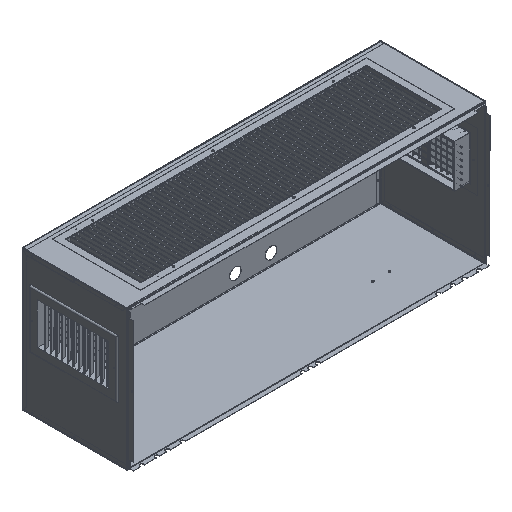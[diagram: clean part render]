
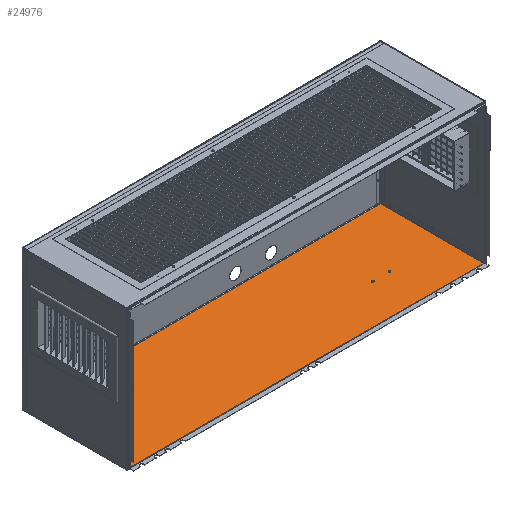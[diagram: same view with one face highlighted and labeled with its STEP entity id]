
A CAD part, isometric view. The second image highlights one B-rep face of the part: STEP entity #24976.
In plain terms, the highlighted planar face has unit normal (0, 0, 1) as drawn and (-1, 0, 0) by its records, which use the part's own axes.
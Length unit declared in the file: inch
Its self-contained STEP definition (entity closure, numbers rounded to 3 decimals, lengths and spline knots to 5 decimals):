
#112 = CARTESIAN_POINT ( 'NONE',  ( 7.61768, 69.57012, 0.08552 ) ) ;
#1647 = EDGE_CURVE ( 'NONE', #38403, #17940, #28912, .T. ) ;
#1666 = ORIENTED_EDGE ( 'NONE', *, *, #26225, .T. ) ;
#1803 = CARTESIAN_POINT ( 'NONE',  ( 7.61768, 25.46787, 13.83947 ) ) ;
#1919 = DIRECTION ( 'NONE',  ( 0., 0., 1. ) ) ;
#2236 = VERTEX_POINT ( 'NONE', #17863 ) ;
#2470 = AXIS2_PLACEMENT_3D ( 'NONE', #8299, #8201, #8145 ) ;
#2502 = LINE ( 'NONE', #9987, #8402 ) ;
#3402 = CARTESIAN_POINT ( 'NONE',  ( 7.61768, 62.39035, 8.41052 ) ) ;
#3556 = EDGE_CURVE ( 'NONE', #24715, #32309, #34981, .T. ) ;
#3728 = ORIENTED_EDGE ( 'NONE', *, *, #35442, .T. ) ;
#4320 = LINE ( 'NONE', #27852, #31734 ) ;
#4520 = VECTOR ( 'NONE', #43083, 39.37008 ) ;
#4918 = VECTOR ( 'NONE', #40337, 39.37008 ) ;
#5208 = DIRECTION ( 'NONE',  ( 0., 1., 0. ) ) ;
#6708 = ORIENTED_EDGE ( 'NONE', *, *, #39556, .T. ) ;
#7026 = LINE ( 'NONE', #33688, #10833 ) ;
#8145 = DIRECTION ( 'NONE',  ( 0., 0., -1. ) ) ;
#8201 = DIRECTION ( 'NONE',  ( 1., 0., 0. ) ) ;
#8299 = CARTESIAN_POINT ( 'NONE',  ( 7.61768, 62.39035, 8.53552 ) ) ;
#8402 = VECTOR ( 'NONE', #37482, 39.37008 ) ;
#8741 = CARTESIAN_POINT ( 'NONE',  ( 7.61768, 22.20632, 0.08552 ) ) ;
#9142 = CARTESIAN_POINT ( 'NONE',  ( 7.61768, 69.57012, 0.08488 ) ) ;
#9370 = CARTESIAN_POINT ( 'NONE',  ( 7.61768, 25.46787, 13.83947 ) ) ;
#9896 = CARTESIAN_POINT ( 'NONE',  ( 7.61768, 69.609, 13.83947 ) ) ;
#9946 = VECTOR ( 'NONE', #19670, 39.37008 ) ;
#9987 = CARTESIAN_POINT ( 'NONE',  ( 7.61768, 25.46787, 13.88577 ) ) ;
#10209 = VERTEX_POINT ( 'NONE', #112 ) ;
#10512 = LINE ( 'NONE', #34636, #39970 ) ;
#10833 = VECTOR ( 'NONE', #13137, 39.37008 ) ;
#10927 = LINE ( 'NONE', #40344, #4918 ) ;
#10952 = VECTOR ( 'NONE', #39840, 39.37008 ) ;
#11218 = VERTEX_POINT ( 'NONE', #26836 ) ;
#11344 = LINE ( 'NONE', #37433, #42572 ) ;
#11366 = CARTESIAN_POINT ( 'NONE',  ( 7.61768, 69.542, 13.83947 ) ) ;
#12595 = LINE ( 'NONE', #9370, #9946 ) ;
#12797 = EDGE_LOOP ( 'NONE', ( #16966, #20315 ) ) ;
#13137 = DIRECTION ( 'NONE',  ( 0., 0., -1. ) ) ;
#13241 = ORIENTED_EDGE ( 'NONE', *, *, #41612, .T. ) ;
#13280 = ORIENTED_EDGE ( 'NONE', *, *, #26552, .T. ) ;
#13394 = ORIENTED_EDGE ( 'NONE', *, *, #33142, .T. ) ;
#13685 = VERTEX_POINT ( 'NONE', #8741 ) ;
#14400 = CARTESIAN_POINT ( 'NONE',  ( 7.61768, 22.26875, 13.83947 ) ) ;
#14416 = EDGE_LOOP ( 'NONE', ( #1666, #20825 ) ) ;
#14800 = CARTESIAN_POINT ( 'NONE',  ( 7.61768, 62.39035, 8.66052 ) ) ;
#15426 = AXIS2_PLACEMENT_3D ( 'NONE', #40021, #40014, #39965 ) ;
#15544 = CARTESIAN_POINT ( 'NONE',  ( 7.61768, 22.24062, 14.5519 ) ) ;
#15604 = CARTESIAN_POINT ( 'NONE',  ( 7.61768, 22.20632, 14.5519 ) ) ;
#15840 = LINE ( 'NONE', #15544, #42273 ) ;
#15841 = CARTESIAN_POINT ( 'NONE',  ( 7.61768, 69.542, 14.5519 ) ) ;
#16251 = VERTEX_POINT ( 'NONE', #11366 ) ;
#16966 = ORIENTED_EDGE ( 'NONE', *, *, #25522, .T. ) ;
#17863 = CARTESIAN_POINT ( 'NONE',  ( 7.61768, 22.26875, 13.88577 ) ) ;
#17940 = VERTEX_POINT ( 'NONE', #3402 ) ;
#18161 = VERTEX_POINT ( 'NONE', #31082 ) ;
#18322 = DIRECTION ( 'NONE',  ( 0., 0., -1. ) ) ;
#18327 = CARTESIAN_POINT ( 'NONE',  ( 7.61768, 62.39035, 8.53552 ) ) ;
#18356 = DIRECTION ( 'NONE',  ( 1., 0., 0. ) ) ;
#18368 = CARTESIAN_POINT ( 'NONE',  ( 7.61768, 60.14035, 8.53552 ) ) ;
#18825 = EDGE_CURVE ( 'NONE', #10209, #28474, #10927, .T. ) ;
#19192 = CARTESIAN_POINT ( 'NONE',  ( 7.61768, 69.542, 13.88577 ) ) ;
#19198 = LINE ( 'NONE', #15841, #10952 ) ;
#19488 = ORIENTED_EDGE ( 'NONE', *, *, #36678, .T. ) ;
#19670 = DIRECTION ( 'NONE',  ( 0., 1., 0. ) ) ;
#20315 = ORIENTED_EDGE ( 'NONE', *, *, #3556, .T. ) ;
#20825 = ORIENTED_EDGE ( 'NONE', *, *, #1647, .T. ) ;
#21236 = LINE ( 'NONE', #1803, #36220 ) ;
#21507 = VERTEX_POINT ( 'NONE', #23441 ) ;
#21803 = DIRECTION ( 'NONE',  ( 0., 0., -1. ) ) ;
#23441 = CARTESIAN_POINT ( 'NONE',  ( 7.61768, 22.20632, 13.83947 ) ) ;
#23664 = AXIS2_PLACEMENT_3D ( 'NONE', #18327, #42327, #21803 ) ;
#23891 = LINE ( 'NONE', #15604, #4520 ) ;
#24297 = FACE_BOUND ( 'NONE', #14416, .T. ) ;
#24426 = DIRECTION ( 'NONE',  ( 0., -1., 0. ) ) ;
#24715 = VERTEX_POINT ( 'NONE', #39793 ) ;
#24725 = FACE_BOUND ( 'NONE', #12797, .T. ) ;
#24830 = AXIS2_PLACEMENT_3D ( 'NONE', #18368, #18356, #18322 ) ;
#24903 = FACE_OUTER_BOUND ( 'NONE', #32962, .T. ) ;
#24976 = ADVANCED_FACE ( 'NONE', ( #24903, #24297, #24725 ), #33166, .T. ) ;
#25522 = EDGE_CURVE ( 'NONE', #32309, #24715, #39235, .T. ) ;
#25769 = AXIS2_PLACEMENT_3D ( 'NONE', #33421, #33037, #32930 ) ;
#26225 = EDGE_CURVE ( 'NONE', #17940, #38403, #41978, .T. ) ;
#26240 = ORIENTED_EDGE ( 'NONE', *, *, #35713, .T. ) ;
#26552 = EDGE_CURVE ( 'NONE', #35189, #2236, #4320, .T. ) ;
#26836 = CARTESIAN_POINT ( 'NONE',  ( 7.61768, 69.609, 0.08552 ) ) ;
#27439 = ORIENTED_EDGE ( 'NONE', *, *, #41955, .T. ) ;
#27852 = CARTESIAN_POINT ( 'NONE',  ( 7.61768, 22.26875, 14.5519 ) ) ;
#28474 = VERTEX_POINT ( 'NONE', #9142 ) ;
#28912 = CIRCLE ( 'NONE', #2470, 0.125 ) ;
#29121 = ORIENTED_EDGE ( 'NONE', *, *, #31299, .T. ) ;
#29285 = CARTESIAN_POINT ( 'NONE',  ( 7.61768, 25.46787, 0.08552 ) ) ;
#30305 = VERTEX_POINT ( 'NONE', #19192 ) ;
#30632 = VECTOR ( 'NONE', #32697, 39.37008 ) ;
#30655 = DIRECTION ( 'NONE',  ( 0., -1., 0. ) ) ;
#31082 = CARTESIAN_POINT ( 'NONE',  ( 7.61768, 22.24062, 0.08552 ) ) ;
#31254 = DIRECTION ( 'NONE',  ( 0., 0., 1. ) ) ;
#31299 = EDGE_CURVE ( 'NONE', #2236, #30305, #2502, .T. ) ;
#31625 = EDGE_CURVE ( 'NONE', #44281, #18161, #15840, .T. ) ;
#31657 = ORIENTED_EDGE ( 'NONE', *, *, #18825, .T. ) ;
#31734 = VECTOR ( 'NONE', #31254, 39.37008 ) ;
#32309 = VERTEX_POINT ( 'NONE', #38122 ) ;
#32697 = DIRECTION ( 'NONE',  ( 0., -1., 0. ) ) ;
#32930 = DIRECTION ( 'NONE',  ( 0., 0., 1. ) ) ;
#32962 = EDGE_LOOP ( 'NONE', ( #13241, #27439, #13280, #29121, #13394, #3728, #19488, #43944, #31657, #26240, #43747, #6708 ) ) ;
#33037 = DIRECTION ( 'NONE',  ( -1., 0., 0. ) ) ;
#33142 = EDGE_CURVE ( 'NONE', #30305, #16251, #19198, .T. ) ;
#33166 = PLANE ( 'NONE',  #25769 ) ;
#33421 = CARTESIAN_POINT ( 'NONE',  ( 7.61768, 25.46787, 14.5519 ) ) ;
#33688 = CARTESIAN_POINT ( 'NONE',  ( 7.61768, 69.609, 14.5519 ) ) ;
#34636 = CARTESIAN_POINT ( 'NONE',  ( 7.61768, -1.42424, 0.08487 ) ) ;
#34981 = CIRCLE ( 'NONE', #15426, 0.125 ) ;
#35189 = VERTEX_POINT ( 'NONE', #14400 ) ;
#35442 = EDGE_CURVE ( 'NONE', #16251, #41189, #12595, .T. ) ;
#35713 = EDGE_CURVE ( 'NONE', #28474, #44281, #10512, .T. ) ;
#36220 = VECTOR ( 'NONE', #5208, 39.37008 ) ;
#36678 = EDGE_CURVE ( 'NONE', #41189, #11218, #7026, .T. ) ;
#37433 = CARTESIAN_POINT ( 'NONE',  ( 7.61768, 25.46787, 0.08552 ) ) ;
#37482 = DIRECTION ( 'NONE',  ( 0., 1., 0. ) ) ;
#37572 = EDGE_CURVE ( 'NONE', #11218, #10209, #40276, .T. ) ;
#38122 = CARTESIAN_POINT ( 'NONE',  ( 7.61768, 60.14035, 8.41052 ) ) ;
#38403 = VERTEX_POINT ( 'NONE', #14800 ) ;
#39235 = CIRCLE ( 'NONE', #24830, 0.125 ) ;
#39323 = CARTESIAN_POINT ( 'NONE',  ( 7.61768, 22.24062, 0.08488 ) ) ;
#39556 = EDGE_CURVE ( 'NONE', #18161, #13685, #11344, .T. ) ;
#39793 = CARTESIAN_POINT ( 'NONE',  ( 7.61768, 60.14035, 8.66052 ) ) ;
#39840 = DIRECTION ( 'NONE',  ( 0., 0., -1. ) ) ;
#39965 = DIRECTION ( 'NONE',  ( 0., 0., -1. ) ) ;
#39970 = VECTOR ( 'NONE', #24426, 39.37008 ) ;
#40014 = DIRECTION ( 'NONE',  ( 1., 0., 0. ) ) ;
#40021 = CARTESIAN_POINT ( 'NONE',  ( 7.61768, 60.14035, 8.53552 ) ) ;
#40276 = LINE ( 'NONE', #29285, #30632 ) ;
#40337 = DIRECTION ( 'NONE',  ( 0., 0., -1. ) ) ;
#40344 = CARTESIAN_POINT ( 'NONE',  ( 7.61768, 69.57012, 14.5519 ) ) ;
#41189 = VERTEX_POINT ( 'NONE', #9896 ) ;
#41612 = EDGE_CURVE ( 'NONE', #13685, #21507, #23891, .T. ) ;
#41955 = EDGE_CURVE ( 'NONE', #21507, #35189, #21236, .T. ) ;
#41978 = CIRCLE ( 'NONE', #23664, 0.125 ) ;
#42273 = VECTOR ( 'NONE', #1919, 39.37008 ) ;
#42327 = DIRECTION ( 'NONE',  ( 1., 0., 0. ) ) ;
#42572 = VECTOR ( 'NONE', #30655, 39.37008 ) ;
#43083 = DIRECTION ( 'NONE',  ( 0., 0., 1. ) ) ;
#43747 = ORIENTED_EDGE ( 'NONE', *, *, #31625, .T. ) ;
#43944 = ORIENTED_EDGE ( 'NONE', *, *, #37572, .T. ) ;
#44281 = VERTEX_POINT ( 'NONE', #39323 ) ;
